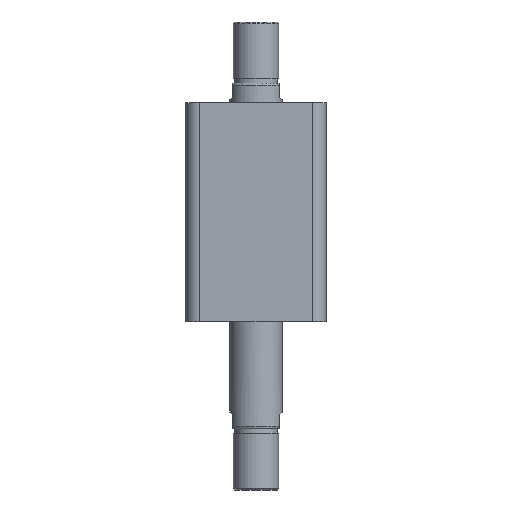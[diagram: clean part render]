
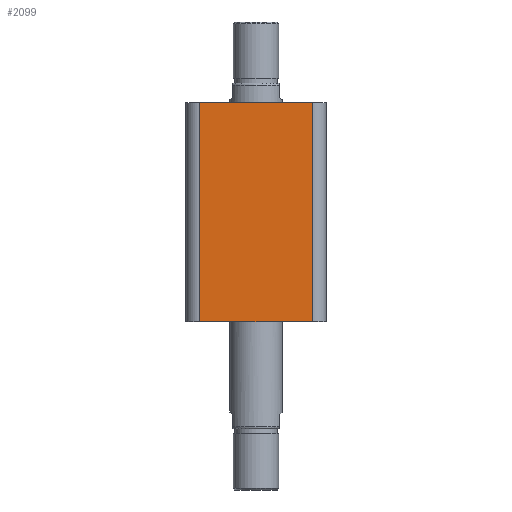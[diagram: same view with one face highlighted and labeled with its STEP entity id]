
A CAD part, front view. The second image highlights one B-rep face of the part: STEP entity #2099.
In plain terms, the highlighted planar face has unit normal (0, -1, 0).
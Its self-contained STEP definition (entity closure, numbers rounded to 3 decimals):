
#1 = CARTESIAN_POINT ( 'NONE',  ( -32., -40., 125. ) ) ;
#12 = CARTESIAN_POINT ( 'NONE',  ( -40., -40., 125. ) ) ;
#16 = DIRECTION ( 'NONE',  ( 0., 0., -1. ) ) ;
#85 = EDGE_CURVE ( 'NONE', #1761, #1770, #1885, .T. ) ;
#86 = EDGE_CURVE ( 'NONE', #1764, #1761, #1883, .T. ) ;
#131 = EDGE_CURVE ( 'NONE', #1766, #1764, #1939, .T. ) ;
#132 = EDGE_CURVE ( 'NONE', #1766, #1770, #1941, .T. ) ;
#529 = AXIS2_PLACEMENT_3D ( 'NONE', #2634, #2638, #2639 ) ;
#661 = ORIENTED_EDGE ( 'NONE', *, *, #132, .F. ) ;
#662 = ORIENTED_EDGE ( 'NONE', *, *, #131, .T. ) ;
#663 = ORIENTED_EDGE ( 'NONE', *, *, #86, .T. ) ;
#664 = ORIENTED_EDGE ( 'NONE', *, *, #85, .T. ) ;
#834 = DIRECTION ( 'NONE',  ( 1., 0., 0. ) ) ;
#1363 = FACE_OUTER_BOUND ( 'NONE', #3234, .T. ) ;
#1761 = VERTEX_POINT ( 'NONE', #2336 ) ;
#1764 = VERTEX_POINT ( 'NONE', #2339 ) ;
#1766 = VERTEX_POINT ( 'NONE', #2341 ) ;
#1770 = VERTEX_POINT ( 'NONE', #2345 ) ;
#1878 = VECTOR ( 'NONE', #2149, 1000. ) ;
#1881 = VECTOR ( 'NONE', #2144, 1000. ) ;
#1883 = LINE ( 'NONE', #2151, #1878 ) ;
#1885 = LINE ( 'NONE', #2152, #1881 ) ;
#1939 = LINE ( 'NONE', #1, #1942 ) ;
#1941 = LINE ( 'NONE', #12, #1944 ) ;
#1942 = VECTOR ( 'NONE', #16, 1000. ) ;
#1944 = VECTOR ( 'NONE', #834, 1000. ) ;
#2099 = ADVANCED_FACE ( 'NONE', ( #1363 ), #2636, .F. ) ;
#2144 = DIRECTION ( 'NONE',  ( 0., 0., 1. ) ) ;
#2149 = DIRECTION ( 'NONE',  ( 1., 0., 0. ) ) ;
#2151 = CARTESIAN_POINT ( 'NONE',  ( -40., -40., 0. ) ) ;
#2152 = CARTESIAN_POINT ( 'NONE',  ( 32., -40., 125. ) ) ;
#2336 = CARTESIAN_POINT ( 'NONE',  ( 32., -40., 0. ) ) ;
#2339 = CARTESIAN_POINT ( 'NONE',  ( -32., -40., 0. ) ) ;
#2341 = CARTESIAN_POINT ( 'NONE',  ( -32., -40., 125. ) ) ;
#2345 = CARTESIAN_POINT ( 'NONE',  ( 32., -40., 125. ) ) ;
#2634 = CARTESIAN_POINT ( 'NONE',  ( -40., -40., 125. ) ) ;
#2636 = PLANE ( 'NONE',  #529 ) ;
#2638 = DIRECTION ( 'NONE',  ( 0., 1., 0. ) ) ;
#2639 = DIRECTION ( 'NONE',  ( 0., 0., 1. ) ) ;
#3234 = EDGE_LOOP ( 'NONE', ( #661, #662, #663, #664 ) ) ;
